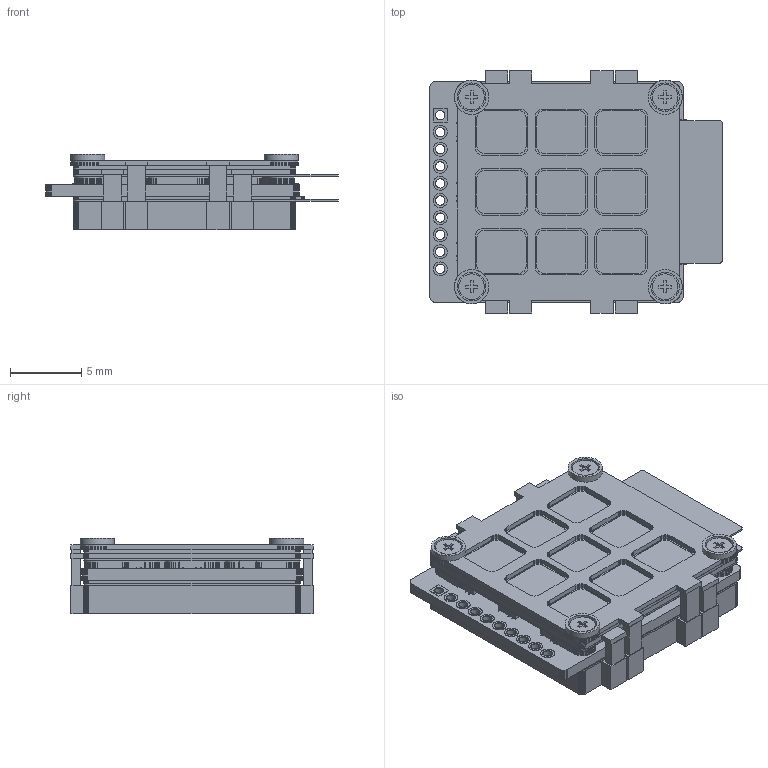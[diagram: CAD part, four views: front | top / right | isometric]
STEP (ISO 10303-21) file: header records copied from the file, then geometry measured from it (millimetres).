
FILE_DESCRIPTION(('Open CASCADE Model'),'2;1');
FILE_NAME('Open CASCADE Shape Model','2026-11-23T03:42:30',('Author'),( 'Open CASCADE'),'Open CASCADE STEP processor 7.9','Open CASCADE 7.9' ,'Unknown');
FILE_SCHEMA(('AUTOMOTIVE_DESIGN { 1 0 10303 214 1 1 1 1 }'));
Length unit declared in the file: millimetre
Products named in the file (46): R2K_display_3_strands; L01_tapped_backing; L04_electrode_board; L04_B10; L04_B11; L04_B12; L04_B13; L04_B20; L04_B21; L04_B22; L04_B23; L04_B30; L04_B31; L04_B32; L04_B33; L05_straight_NiCr_1; L05_straight_NiCr_2; L05_straight_NiCr_3; L05_straight_NiCr_4; L05_straight_NiCr_5; L05_straight_NiCr_6; L05_straight_NiCr_7; L05_straight_NiCr_8; L05_straight_NiCr_9; L04_plated_land_T0; L04_plated_land_T1; L04_plated_land_T2; L04_plated_land_T3; L04_plated_land_T4; L04_plated_land_T5; L04_plated_land_T6; L04_plated_land_T7; L04_plated_land_T8; L04_plated_land_T9; L02-floor-C110; L03-windowed-floor-gasket; L06-connected-contact-gasket; L07-upper-dielectric-PI; L08-upper-C110; L09-aperture-cap-FR4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
Assembly tree (45 placements, depth 2):
  R2K_display_3_strands
    L01_tapped_backing
    L04_electrode_board
    L04_B10
    L04_B11
    L04_B12
    L04_B13
    L04_B20
    L04_B21
    L04_B22
    L04_B23
    L04_B30
    L04_B31
    L04_B32
    L04_B33
    L05_straight_NiCr_1
    L05_straight_NiCr_2
    L05_straight_NiCr_3
    L05_straight_NiCr_4
    L05_straight_NiCr_5
    L05_straight_NiCr_6
    L05_straight_NiCr_7
    L05_straight_NiCr_8
    L05_straight_NiCr_9
    L04_plated_land_T0
    L04_plated_land_T1
    L04_plated_land_T2
    L04_plated_land_T3
    L04_plated_land_T4
    L04_plated_land_T5
    L04_plated_land_T6
    L04_plated_land_T7
    L04_plated_land_T8
    L04_plated_land_T9
    L02-floor-C110
    L03-windowed-floor-gasket
    L06-connected-contact-gasket
    L07-upper-dielectric-PI
    L08-upper-C110
    L09-aperture-cap-FR4
    L10-diaphragm
    L11_face_clamp_grid
    L12_M1p2x4_1
    L12_M1p2x4_2
    L12_M1p2x4_3
    L12_M1p2x4_4
Bounding box: 20.55 x 17 x 5.27 mm (x, y, z)
Volume: 901.3 mm3; surface area: 4959.3 mm2
Topology: 45 solids, 45 shells, 4281 faces, 12121 edges, 7992 vertices
Faces by surface type: plane 4094, cylinder 187
Full cylindrical faces by diameter (mm): 0.032 x45, 0.425 x9, 0.6 x9, 0.65 x30, 0.69 x20, 0.98 x18, 1.2 x8, 1.4 x36, 1.8 x4, 2 x4, 2.4 x4
Entity records: 295649 total; most frequent: CARTESIAN_POINT 50047, DIRECTION 45119, LINE 35210, VECTOR 35210, ORIENTED_EDGE 24242, PCURVE 24242, DEFINITIONAL_REPRESENTATION 24242, EDGE_CURVE 12121
